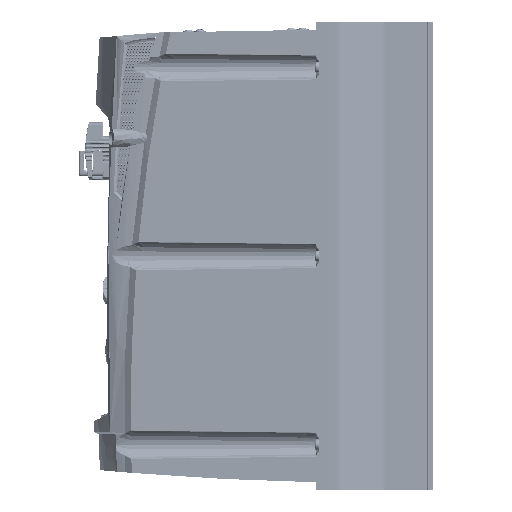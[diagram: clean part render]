
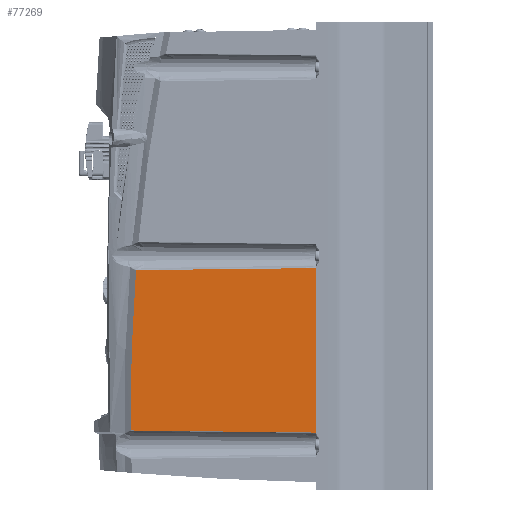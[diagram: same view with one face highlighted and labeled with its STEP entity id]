
A CAD part, left-side view. The second image highlights one B-rep face of the part: STEP entity #77269.
In plain terms, the highlighted planar face has unit normal (-1, 0.018, 0).
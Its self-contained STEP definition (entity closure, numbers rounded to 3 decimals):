
#2854 = CARTESIAN_POINT ( 'NONE',  ( -95.11, 5.491, -8.062 ) ) ;
#3277 = CARTESIAN_POINT ( 'NONE',  ( -93.033, 124.49, -9.414 ) ) ;
#4328 = CARTESIAN_POINT ( 'NONE',  ( -94.417, 45.157, -8.551 ) ) ;
#5357 = ORIENTED_EDGE ( 'NONE', *, *, #77771, .T. ) ;
#5948 = EDGE_CURVE ( 'NONE', #55902, #194483, #25551, .T. ) ;
#14997 = CARTESIAN_POINT ( 'NONE',  ( -92.985, 127.213, -44.748 ) ) ;
#20529 = CARTESIAN_POINT ( 'NONE',  ( -92.972, 127.939, -115.636 ) ) ;
#22266 = DIRECTION ( 'NONE',  ( -1., 0.017, 0. ) ) ;
#23299 = FACE_OUTER_BOUND ( 'NONE', #41741, .T. ) ;
#25551 = LINE ( 'NONE', #198324, #94194 ) ;
#28256 = CARTESIAN_POINT ( 'NONE',  ( -93.033, 124.492, -9.435 ) ) ;
#39927 = CARTESIAN_POINT ( 'NONE',  ( -95.207, -0.087, -155.044 ) ) ;
#41294 = VERTEX_POINT ( 'NONE', #106891 ) ;
#41741 = EDGE_LOOP ( 'NONE', ( #5357, #110095, #108492, #82784, #62428, #149308 ) ) ;
#43223 = DIRECTION ( 'NONE',  ( 0., 0., 1. ) ) ;
#47990 = B_SPLINE_CURVE_WITH_KNOTS ( 'NONE', 3,
 ( #154421, #14997, #94092, #137815 ),
 .UNSPECIFIED., .F., .F.,
 ( 4, 4 ),
 ( 0., 0.107 ),
 .UNSPECIFIED. ) ;
#48355 = CARTESIAN_POINT ( 'NONE',  ( -92.972, 127.941, -115.624 ) ) ;
#51181 = CARTESIAN_POINT ( 'NONE',  ( -93.725, 84.823, -8.996 ) ) ;
#52148 = B_SPLINE_CURVE_WITH_KNOTS ( 'NONE', 3,
 ( #20529, #65312, #85042, #113157 ),
 .UNSPECIFIED., .F., .F.,
 ( 4, 4 ),
 ( 0., 0.122 ),
 .UNSPECIFIED. ) ;
#55902 = VERTEX_POINT ( 'NONE', #190018 ) ;
#62428 = ORIENTED_EDGE ( 'NONE', *, *, #142709, .T. ) ;
#64595 = VERTEX_POINT ( 'NONE', #28256 ) ;
#65312 = CARTESIAN_POINT ( 'NONE',  ( -93.685, 87.123, -116.065 ) ) ;
#72407 = CARTESIAN_POINT ( 'NONE',  ( -93.033, 124.49, -9.414 ) ) ;
#77269 = ADVANCED_FACE ( 'NONE', ( #23299 ), #117963, .T. ) ;
#77771 = EDGE_CURVE ( 'NONE', #194483, #151564, #97882, .T. ) ;
#82784 = ORIENTED_EDGE ( 'NONE', *, *, #138909, .T. ) ;
#85042 = CARTESIAN_POINT ( 'NONE',  ( -94.397, 46.307, -116.522 ) ) ;
#86234 = CARTESIAN_POINT ( 'NONE',  ( -93.033, 124.492, -9.435 ) ) ;
#86792 = DIRECTION ( 'NONE',  ( 0.017, 1., 0. ) ) ;
#94092 = CARTESIAN_POINT ( 'NONE',  ( -92.965, 128.365, -80.182 ) ) ;
#94194 = VECTOR ( 'NONE', #43223, 1000. ) ;
#97882 = B_SPLINE_CURVE_WITH_KNOTS ( 'NONE', 3,
 ( #162456, #4328, #51181, #3277 ),
 .UNSPECIFIED., .F., .F.,
 ( 4, 4 ),
 ( 0., 0.119 ),
 .UNSPECIFIED. ) ;
#106791 = EDGE_CURVE ( 'NONE', #151564, #64595, #119234, .T. ) ;
#106891 = CARTESIAN_POINT ( 'NONE',  ( -92.972, 127.939, -115.636 ) ) ;
#107701 = CARTESIAN_POINT ( 'NONE',  ( -92.972, 127.942, -115.598 ) ) ;
#108492 = ORIENTED_EDGE ( 'NONE', *, *, #157286, .T. ) ;
#110095 = ORIENTED_EDGE ( 'NONE', *, *, #106791, .T. ) ;
#113157 = CARTESIAN_POINT ( 'NONE',  ( -95.11, 5.491, -117.025 ) ) ;
#117963 = PLANE ( 'NONE',  #173926 ) ;
#119234 = B_SPLINE_CURVE_WITH_KNOTS ( 'NONE', 3,
 ( #148605, #150667, #180886, #86234 ),
 .UNSPECIFIED., .F., .F.,
 ( 4, 4 ),
 ( 0., 0. ),
 .UNSPECIFIED. ) ;
#137815 = CARTESIAN_POINT ( 'NONE',  ( -92.972, 127.942, -115.598 ) ) ;
#138529 = VERTEX_POINT ( 'NONE', #139614 ) ;
#138909 = EDGE_CURVE ( 'NONE', #138529, #41294, #173832, .T. ) ;
#139614 = CARTESIAN_POINT ( 'NONE',  ( -92.972, 127.942, -115.598 ) ) ;
#142709 = EDGE_CURVE ( 'NONE', #41294, #55902, #52148, .T. ) ;
#148605 = CARTESIAN_POINT ( 'NONE',  ( -93.033, 124.49, -9.414 ) ) ;
#149308 = ORIENTED_EDGE ( 'NONE', *, *, #5948, .T. ) ;
#150667 = CARTESIAN_POINT ( 'NONE',  ( -93.033, 124.491, -9.421 ) ) ;
#151564 = VERTEX_POINT ( 'NONE', #72407 ) ;
#154421 = CARTESIAN_POINT ( 'NONE',  ( -93.033, 124.492, -9.435 ) ) ;
#157286 = EDGE_CURVE ( 'NONE', #64595, #138529, #47990, .T. ) ;
#162456 = CARTESIAN_POINT ( 'NONE',  ( -95.11, 5.491, -8.062 ) ) ;
#173832 = B_SPLINE_CURVE_WITH_KNOTS ( 'NONE', 3,
 ( #107701, #190866, #48355, #202349 ),
 .UNSPECIFIED., .F., .F.,
 ( 4, 4 ),
 ( 0., 0. ),
 .UNSPECIFIED. ) ;
#173926 = AXIS2_PLACEMENT_3D ( 'NONE', #39927, #22266, #86792 ) ;
#180886 = CARTESIAN_POINT ( 'NONE',  ( -93.033, 124.491, -9.428 ) ) ;
#190018 = CARTESIAN_POINT ( 'NONE',  ( -95.11, 5.491, -117.025 ) ) ;
#190866 = CARTESIAN_POINT ( 'NONE',  ( -92.972, 127.942, -115.611 ) ) ;
#194483 = VERTEX_POINT ( 'NONE', #2854 ) ;
#198324 = CARTESIAN_POINT ( 'NONE',  ( -95.11, 5.491, -155.044 ) ) ;
#202349 = CARTESIAN_POINT ( 'NONE',  ( -92.972, 127.939, -115.636 ) ) ;
